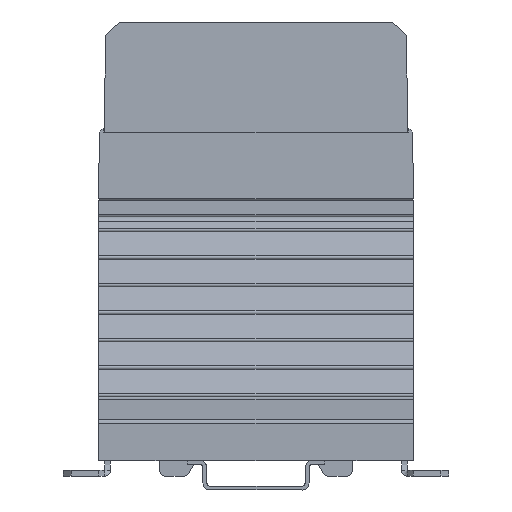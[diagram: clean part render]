
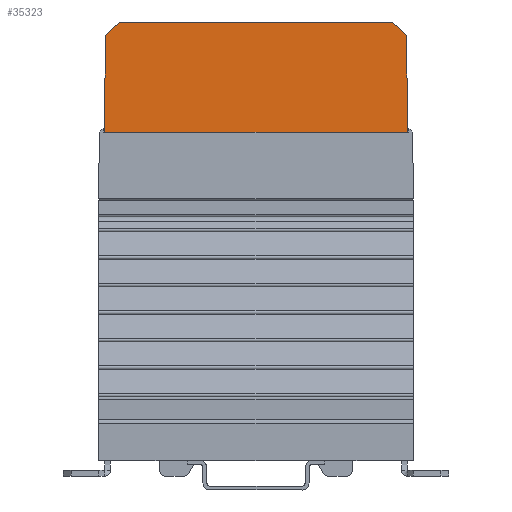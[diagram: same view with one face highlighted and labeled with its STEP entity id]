
A CAD part, left-side view. The second image highlights one B-rep face of the part: STEP entity #35323.
In plain terms, the highlighted free-form (B-spline) face has degree [1, 1] with [2, 2] control points.
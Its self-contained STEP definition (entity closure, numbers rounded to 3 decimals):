
#11538=CARTESIAN_POINT('',(-10.956,34.764,119.));
#11539=VERTEX_POINT('',#11538);
#11547=CARTESIAN_POINT('',(-10.987,38.304,115.46));
#11548=VERTEX_POINT('',#11547);
#11555=CARTESIAN_POINT('',(-10.956,34.764,119.));
#11556=DIRECTION('',(-0.006,0.707,-0.707));
#11557=VECTOR('',#11556,5.006);
#11558=LINE('',#11555,#11557);
#11559=EDGE_CURVE('',#11539,#11548,#11558,.T.);
#13037=CARTESIAN_POINT('',(-11.2,38.517,91.));
#13038=VERTEX_POINT('',#13037);
#13045=CARTESIAN_POINT('',(-11.2,38.517,91.));
#13046=DIRECTION('',(0.009,-0.009,1.));
#13047=VECTOR('',#13046,24.462);
#13048=LINE('',#13045,#13047);
#13049=EDGE_CURVE('',#13038,#11548,#13048,.T.);
#32248=CARTESIAN_POINT('',(-10.956,-34.764,119.));
#32249=VERTEX_POINT('',#32248);
#32256=CARTESIAN_POINT('',(-10.987,-38.304,115.46));
#32257=VERTEX_POINT('',#32256);
#32258=CARTESIAN_POINT('',(-10.956,-34.764,119.));
#32259=DIRECTION('',(-0.006,-0.707,-0.707));
#32260=VECTOR('',#32259,5.006);
#32261=LINE('',#32258,#32260);
#32262=EDGE_CURVE('',#32249,#32257,#32261,.T.);
#33608=CARTESIAN_POINT('',(-11.2,-38.517,91.));
#33609=VERTEX_POINT('',#33608);
#33610=CARTESIAN_POINT('',(-11.2,-38.517,91.));
#33611=DIRECTION('',(0.009,0.009,1.));
#33612=VECTOR('',#33611,24.462);
#33613=LINE('',#33610,#33612);
#33614=EDGE_CURVE('',#33609,#32257,#33613,.T.);
#35223=CARTESIAN_POINT('',(-10.956,-34.764,119.));
#35224=DIRECTION('',(0.0,1.0,0.0));
#35225=VECTOR('',#35224,69.529);
#35226=LINE('',#35223,#35225);
#35227=EDGE_CURVE('',#32249,#11539,#35226,.T.);
#35305=CARTESIAN_POINT('',(-11.2,-38.517,91.));
#35306=CARTESIAN_POINT('',(-10.956,-38.517,119.));
#35307=CARTESIAN_POINT('',(-11.2,38.517,91.));
#35308=CARTESIAN_POINT('',(-10.956,38.517,119.));
#35309=B_SPLINE_SURFACE_WITH_KNOTS('',1,1,((#35305,#35307),(#35306,#35308)),.UNSPECIFIED.,.F.,.F.,.U.,(2,2),(2,2),(0.0,28.001),(0.0,77.035),.UNSPECIFIED.);
#35310=CARTESIAN_POINT('',(-11.2,38.517,91.));
#35311=DIRECTION('',(0.0,-1.0,0.0));
#35312=VECTOR('',#35311,77.035);
#35313=LINE('',#35310,#35312);
#35314=EDGE_CURVE('',#33609,#13038,#35313,.F.);
#35315=ORIENTED_EDGE('',*,*,#35314,.F.);
#35316=ORIENTED_EDGE('',*,*,#33614,.T.);
#35317=ORIENTED_EDGE('',*,*,#32262,.F.);
#35318=ORIENTED_EDGE('',*,*,#35227,.T.);
#35319=ORIENTED_EDGE('',*,*,#11559,.T.);
#35320=ORIENTED_EDGE('',*,*,#13049,.F.);
#35321=EDGE_LOOP('',(#35315,#35316,#35317,#35318,#35319,#35320));
#35322=FACE_OUTER_BOUND('',#35321,.T.);
#35323=ADVANCED_FACE('',(#35322),#35309,.T.);
